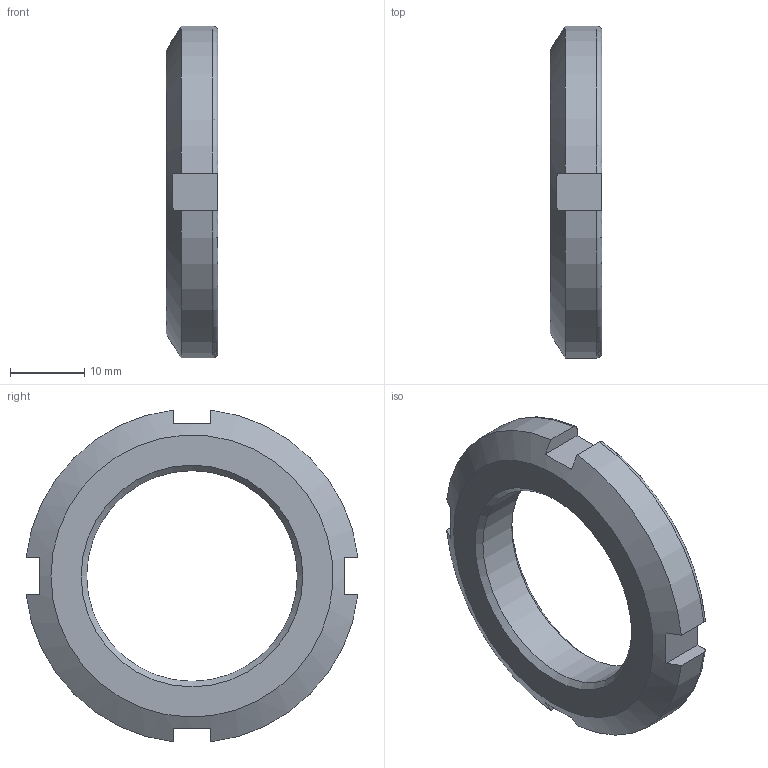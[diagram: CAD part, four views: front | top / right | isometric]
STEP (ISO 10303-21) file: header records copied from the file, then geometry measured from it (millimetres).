
FILE_DESCRIPTION(/* description */ ('Locknuts and locking devices-Dimensions - Locknuts(4 slots)'),/* implementation_level */ '2;1');
FILE_NAME(/* name */ 'D:\lock nut\LOCK NUT ISO 2982-2 - M30 x 1,5 x 38.stp',/* time_stamp */ '2022-04-01T13:48:33+07:00',/* author */ ('USER'),/* organization */ (''),/* preprocessor_version */ 'ST-DEVELOPER v16.1',/* originating_system */ 'Autodesk Inventor 2016',/* authorisation */ '');
FILE_SCHEMA (('AUTOMOTIVE_DESIGN { 1 0 10303 214 3 1 1 }'));
Length unit declared in the file: millimetre
Products named in the file (1): LOCK NUT ISO 2982-2 - M30 x 1,5 x 38
Bounding box: 7 x 44.72 x 44.72 mm (x, y, z)
Volume: 5952 mm3; surface area: 3220.4 mm2
Topology: 1 solids, 1 shells, 26 faces, 72 edges, 48 vertices
Faces by surface type: plane 14, cylinder 5, torus 4, cone 3
Full cylindrical faces by diameter (mm): 28.376 x1
Entity records: 858 total; most frequent: CARTESIAN_POINT 233, ORIENTED_EDGE 130, DIRECTION 116, EDGE_CURVE 65, VERTEX_POINT 45, AXIS2_PLACEMENT_3D 44, EDGE_LOOP 32, LINE 28
